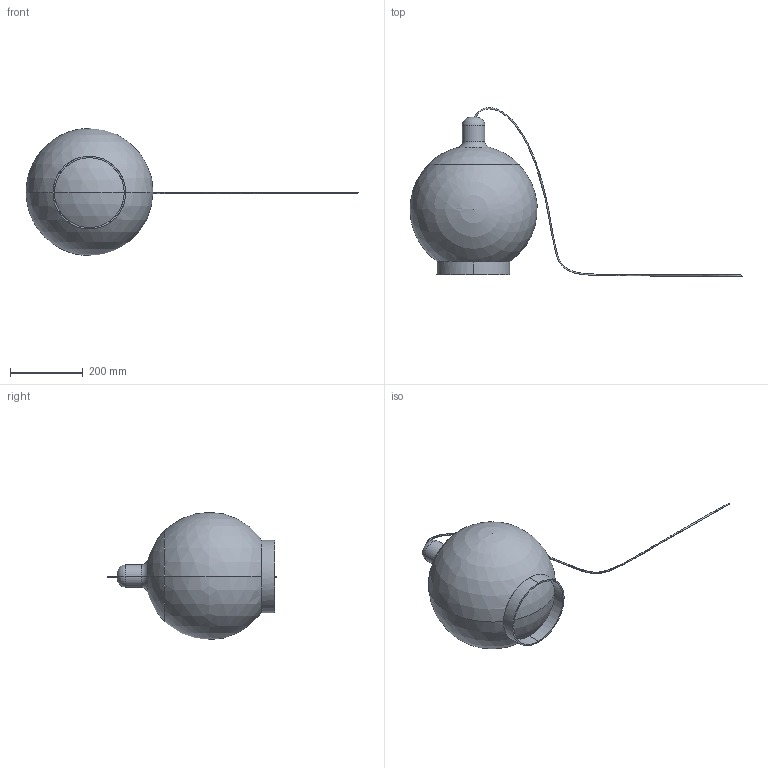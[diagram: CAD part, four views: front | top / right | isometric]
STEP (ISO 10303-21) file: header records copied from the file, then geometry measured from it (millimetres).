
FILE_DESCRIPTION (( 'STEP AP214' ), '1' );
FILE_NAME ('181119_dolly_bord_BS_.STEP', '2019-11-18T09:35:32', ( '' ), ( '' ), 'SwSTEP 2.0', 'SolidWorks 2018', '' );
FILE_SCHEMA (( 'AUTOMOTIVE_DESIGN' ));
Length unit declared in the file: millimetre
Products named in the file (1): 181119_dolly_bord_BS_
Bounding box: 913.31 x 463.98 x 350 mm (x, y, z)
Volume: 2691998.2 mm3; surface area: 819703.2 mm2
Topology: 1 solids, 2 shells, 27 faces, 65 edges, 40 vertices
Faces by surface type: sphere 8, cylinder 6, torus 6, plane 5, bspline 2
Entity records: 1856 total; most frequent: CARTESIAN_POINT 948, DIRECTION 136, ORIENTED_EDGE 110, AXIS2_PLACEMENT_3D 65, EDGE_CURVE 55, CIRCLE 39, VERTEX_POINT 34, UNCERTAINTY_MEASURE_WITH_UNIT 30
